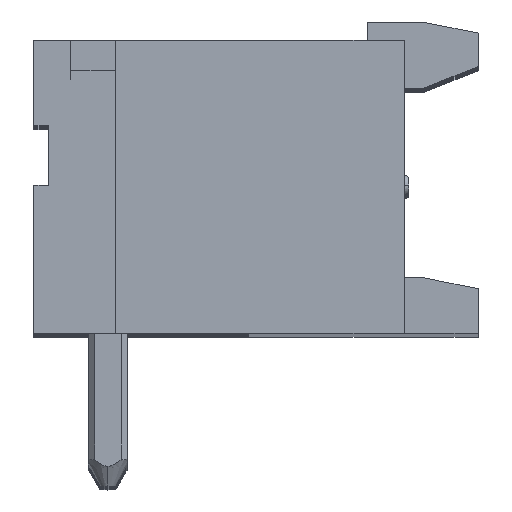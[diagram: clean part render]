
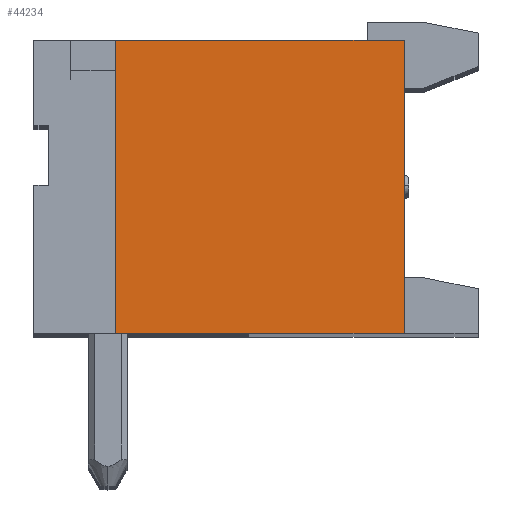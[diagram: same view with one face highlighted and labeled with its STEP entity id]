
A CAD part, top view. The second image highlights one B-rep face of the part: STEP entity #44234.
In plain terms, the highlighted planar face has unit normal (0, 0, 1).
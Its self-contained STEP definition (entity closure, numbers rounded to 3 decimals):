
#22590 = CARTESIAN_POINT ( 'NONE',  ( 2.327, 5.734, 0. ) ) ;
#22591 = DIRECTION ( 'NONE',  ( -1., 0., 0. ) ) ;
#22592 = VECTOR ( 'NONE', #22591, 1000. ) ;
#22593 = CARTESIAN_POINT ( 'NONE',  ( -1.573, 5.734, 0. ) ) ;
#22594 = LINE ( 'NONE', #22593, #22592 ) ;
#22595 = CARTESIAN_POINT ( 'NONE',  ( -5.473, 5.734, 0. ) ) ;
#22640 = DIRECTION ( 'NONE',  ( 0., -1., 0. ) ) ;
#22641 = VECTOR ( 'NONE', #22640, 1000. ) ;
#22642 = CARTESIAN_POINT ( 'NONE',  ( -5.473, 1.784, 0. ) ) ;
#22643 = LINE ( 'NONE', #22642, #22641 ) ;
#22644 = CARTESIAN_POINT ( 'NONE',  ( -5.473, -2.166, 0. ) ) ;
#24295 = CARTESIAN_POINT ( 'NONE',  ( -5.473, -2.166, 0. ) ) ;
#24296 = AXIS2_PLACEMENT_3D ( 'NONE', #24295, #24362, #24361 ) ;
#24297 = PLANE ( 'NONE',  #24296 ) ;
#24298 = FACE_OUTER_BOUND ( 'NONE', #44237, .T. ) ;
#24352 = DIRECTION ( 'NONE',  ( 0., -1., 0. ) ) ;
#24353 = VECTOR ( 'NONE', #24352, 1000. ) ;
#24354 = CARTESIAN_POINT ( 'NONE',  ( 2.327, 1.784, 0. ) ) ;
#24355 = LINE ( 'NONE', #24354, #24353 ) ;
#24356 = CARTESIAN_POINT ( 'NONE',  ( 2.327, -2.166, 0. ) ) ;
#24357 = DIRECTION ( 'NONE',  ( 1., 0., 0. ) ) ;
#24358 = VECTOR ( 'NONE', #24357, 1000. ) ;
#24359 = CARTESIAN_POINT ( 'NONE',  ( -5.473, -2.166, 0. ) ) ;
#24360 = LINE ( 'NONE', #24359, #24358 ) ;
#24361 = DIRECTION ( 'NONE',  ( 1., 0., 0. ) ) ;
#24362 = DIRECTION ( 'NONE',  ( 0., 0., 1. ) ) ;
#41245 = VERTEX_POINT ( 'NONE', #22595 ) ;
#41251 = EDGE_CURVE ( 'NONE', #41254, #41245, #22594, .T. ) ;
#41254 = VERTEX_POINT ( 'NONE', #22590 ) ;
#41338 = VERTEX_POINT ( 'NONE', #22644 ) ;
#41342 = EDGE_CURVE ( 'NONE', #41245, #41338, #22643, .T. ) ;
#44234 = ADVANCED_FACE ( 'NONE', ( #24298 ), #24297, .T. ) ;
#44237 = EDGE_LOOP ( 'NONE', ( #44238, #44239, #44240, #44247 ) ) ;
#44238 = ORIENTED_EDGE ( 'NONE', *, *, #41251, .T. ) ;
#44239 = ORIENTED_EDGE ( 'NONE', *, *, #41342, .T. ) ;
#44240 = ORIENTED_EDGE ( 'NONE', *, *, #44242, .T. ) ;
#44242 = EDGE_CURVE ( 'NONE', #41338, #44245, #24360, .T. ) ;
#44245 = VERTEX_POINT ( 'NONE', #24356 ) ;
#44247 = ORIENTED_EDGE ( 'NONE', *, *, #44248, .F. ) ;
#44248 = EDGE_CURVE ( 'NONE', #41254, #44245, #24355, .T. ) ;
